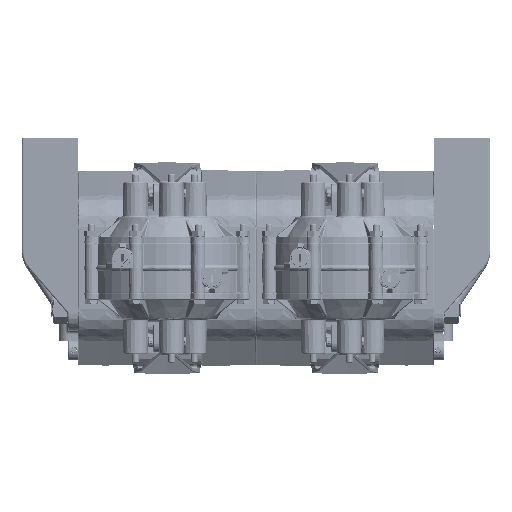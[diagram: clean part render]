
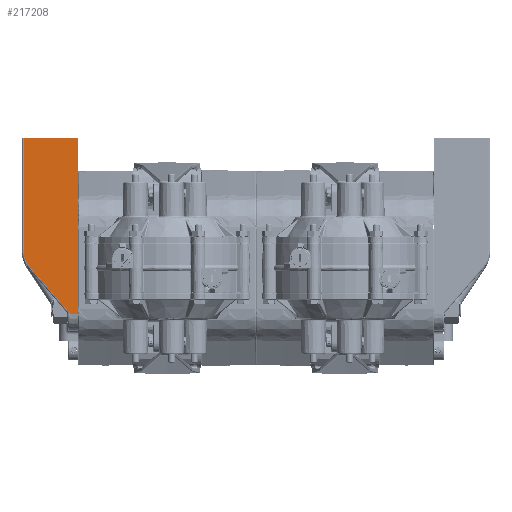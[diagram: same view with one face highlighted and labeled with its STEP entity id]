
A CAD part, left-side view. The second image highlights one B-rep face of the part: STEP entity #217208.
In plain terms, the highlighted planar face has unit normal (-1, 0.026, 0).
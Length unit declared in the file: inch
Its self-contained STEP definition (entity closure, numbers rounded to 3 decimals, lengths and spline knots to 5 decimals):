
#10791 = DIRECTION ( 'NONE',  ( -0.026, -1., 0. ) ) ;
#23539 = DIRECTION ( 'NONE',  ( 0., 0., -1. ) ) ;
#29689 = DIRECTION ( 'NONE',  ( -1., 0.026, 0. ) ) ;
#34455 = EDGE_CURVE ( 'NONE', #319627, #290955, #400282, .T. ) ;
#50606 = CARTESIAN_POINT ( 'NONE',  ( -4.14512, 8.48814, 0.41521 ) ) ;
#54296 = DIRECTION ( 'NONE',  ( -0.017, -0.656, -0.755 ) ) ;
#63457 = VERTEX_POINT ( 'NONE', #378589 ) ;
#68012 = ORIENTED_EDGE ( 'NONE', *, *, #408910, .T. ) ;
#74308 = LINE ( 'NONE', #276474, #275376 ) ;
#108506 = ORIENTED_EDGE ( 'NONE', *, *, #201061, .T. ) ;
#125354 = CARTESIAN_POINT ( 'NONE',  ( -4.15114, 8.25855, 0.02891 ) ) ;
#139313 = EDGE_LOOP ( 'NONE', ( #164980, #108506, #68012, #339085, #396660, #316563 ) ) ;
#144330 = EDGE_CURVE ( 'NONE', #290955, #210189, #74308, .T. ) ;
#159029 = CARTESIAN_POINT ( 'NONE',  ( -4.19734, 6.494, 4.75 ) ) ;
#161136 = EDGE_CURVE ( 'NONE', #63457, #382439, #186073, .T. ) ;
#164980 = ORIENTED_EDGE ( 'NONE', *, *, #144330, .T. ) ;
#166596 = CARTESIAN_POINT ( 'NONE',  ( -4.19734, 6.494, -1.665 ) ) ;
#176547 = AXIS2_PLACEMENT_3D ( 'NONE', #255351, #29689, #231871 ) ;
#176601 = CARTESIAN_POINT ( 'NONE',  ( -4.18965, 6.78787, -1.665 ) ) ;
#186073 =( BOUNDED_CURVE ( )  B_SPLINE_CURVE ( 3, ( #212561, #50606, #214670, #376289 ),
 .UNSPECIFIED., .F., .F. ) 
 B_SPLINE_CURVE_WITH_KNOTS ( ( 4, 4 ),
 ( 3.14159, 3.85657 ),
 .UNSPECIFIED. ) 
 CURVE ( )  GEOMETRIC_REPRESENTATION_ITEM ( )  RATIONAL_B_SPLINE_CURVE ( ( 1., 0.958, 0.958, 1. ) ) 
 REPRESENTATION_ITEM ( '' )  );
#189497 = LINE ( 'NONE', #317185, #363776 ) ;
#191460 = VECTOR ( 'NONE', #229561, 39.37008 ) ;
#201061 = EDGE_CURVE ( 'NONE', #210189, #270067, #395401, .T. ) ;
#204331 = DIRECTION ( 'NONE',  ( 0., 0., 1. ) ) ;
#210189 = VERTEX_POINT ( 'NONE', #159029 ) ;
#210878 = CARTESIAN_POINT ( 'NONE',  ( -4.198, 6.469, -1.665 ) ) ;
#212561 = CARTESIAN_POINT ( 'NONE',  ( -4.14512, 8.48814, 0.64354 ) ) ;
#214670 = CARTESIAN_POINT ( 'NONE',  ( -4.14722, 8.40824, 0.20132 ) ) ;
#215083 = FACE_OUTER_BOUND ( 'NONE', #139313, .T. ) ;
#217172 = VECTOR ( 'NONE', #10791, 39.37008 ) ;
#217208 = ADVANCED_FACE ( 'NONE', ( #215083 ), #247016, .T. ) ;
#229561 = DIRECTION ( 'NONE',  ( 0.026, 1., 0. ) ) ;
#231871 = DIRECTION ( 'NONE',  ( 0.026, 1., 0. ) ) ;
#247016 = PLANE ( 'NONE',  #176547 ) ;
#255351 = CARTESIAN_POINT ( 'NONE',  ( -4.198, 6.469, 4.87 ) ) ;
#268604 = EDGE_CURVE ( 'NONE', #382439, #319627, #284186, .T. ) ;
#270067 = VERTEX_POINT ( 'NONE', #310291 ) ;
#275376 = VECTOR ( 'NONE', #204331, 39.37008 ) ;
#276474 = CARTESIAN_POINT ( 'NONE',  ( -4.19734, 6.494, 4.87 ) ) ;
#284186 = LINE ( 'NONE', #345968, #332456 ) ;
#290955 = VERTEX_POINT ( 'NONE', #166596 ) ;
#310291 = CARTESIAN_POINT ( 'NONE',  ( -4.14512, 8.48814, 4.75 ) ) ;
#316563 = ORIENTED_EDGE ( 'NONE', *, *, #34455, .T. ) ;
#317185 = CARTESIAN_POINT ( 'NONE',  ( -4.14512, 8.48814, 0.64354 ) ) ;
#319627 = VERTEX_POINT ( 'NONE', #176601 ) ;
#332456 = VECTOR ( 'NONE', #54296, 39.37008 ) ;
#339085 = ORIENTED_EDGE ( 'NONE', *, *, #161136, .T. ) ;
#345968 = CARTESIAN_POINT ( 'NONE',  ( -4.18873, 6.82275, -1.62482 ) ) ;
#355072 = CARTESIAN_POINT ( 'NONE',  ( -4.198, 6.469, 4.75 ) ) ;
#363776 = VECTOR ( 'NONE', #23539, 39.37008 ) ;
#376289 = CARTESIAN_POINT ( 'NONE',  ( -4.15114, 8.25855, 0.02891 ) ) ;
#378589 = CARTESIAN_POINT ( 'NONE',  ( -4.14512, 8.48814, 0.64354 ) ) ;
#382439 = VERTEX_POINT ( 'NONE', #125354 ) ;
#395401 = LINE ( 'NONE', #355072, #191460 ) ;
#396660 = ORIENTED_EDGE ( 'NONE', *, *, #268604, .T. ) ;
#400282 = LINE ( 'NONE', #210878, #217172 ) ;
#408910 = EDGE_CURVE ( 'NONE', #270067, #63457, #189497, .T. ) ;
